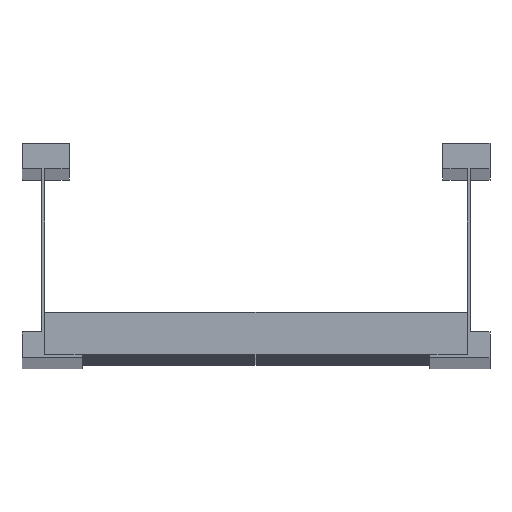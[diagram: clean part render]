
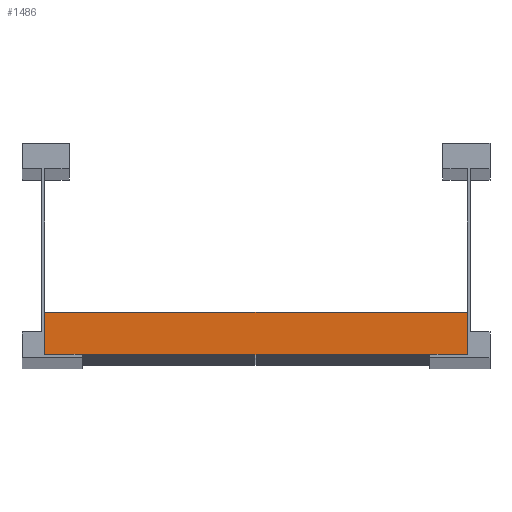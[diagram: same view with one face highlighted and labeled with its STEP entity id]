
A CAD part, top view. The second image highlights one B-rep face of the part: STEP entity #1486.
In plain terms, the highlighted planar face has unit normal (0, 0, 1).
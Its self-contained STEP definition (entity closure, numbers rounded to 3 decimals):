
#5 = ORIENTED_EDGE ( 'NONE', *, *, #10724, .T. ) ;
#411 = VECTOR ( 'NONE', #1797, 1000. ) ;
#1029 = LINE ( 'NONE', #6186, #3321 ) ;
#1486 = ADVANCED_FACE ( 'NONE', ( #6706 ), #1542, .F. ) ;
#1542 = PLANE ( 'NONE',  #2920 ) ;
#1639 = ORIENTED_EDGE ( 'NONE', *, *, #2992, .F. ) ;
#1797 = DIRECTION ( 'NONE',  ( -1., 0., 0. ) ) ;
#1862 = DIRECTION ( 'NONE',  ( 0., -1., 0. ) ) ;
#2394 = VERTEX_POINT ( 'NONE', #11274 ) ;
#2765 = CARTESIAN_POINT ( 'NONE',  ( -98.5, 0., 20.25 ) ) ;
#2888 = VECTOR ( 'NONE', #1862, 1000. ) ;
#2920 = AXIS2_PLACEMENT_3D ( 'NONE', #10295, #8535, #9582 ) ;
#2992 = EDGE_CURVE ( 'NONE', #3861, #6107, #1029, .T. ) ;
#3321 = VECTOR ( 'NONE', #3719, 1000. ) ;
#3621 = VERTEX_POINT ( 'NONE', #10213 ) ;
#3719 = DIRECTION ( 'NONE',  ( -1., 0., 0. ) ) ;
#3861 = VERTEX_POINT ( 'NONE', #6442 ) ;
#4132 = EDGE_LOOP ( 'NONE', ( #9977, #1639, #10216, #5 ) ) ;
#4227 = DIRECTION ( 'NONE',  ( 0., -1., 0. ) ) ;
#5105 = CARTESIAN_POINT ( 'NONE',  ( -98.5, 20., 20.25 ) ) ;
#6107 = VERTEX_POINT ( 'NONE', #2765 ) ;
#6132 = LINE ( 'NONE', #11489, #411 ) ;
#6186 = CARTESIAN_POINT ( 'NONE',  ( 98.5, 0., 20.25 ) ) ;
#6320 = LINE ( 'NONE', #9905, #2888 ) ;
#6442 = CARTESIAN_POINT ( 'NONE',  ( 98.5, 0., 20.25 ) ) ;
#6706 = FACE_OUTER_BOUND ( 'NONE', #4132, .T. ) ;
#6778 = EDGE_CURVE ( 'NONE', #3621, #3861, #6320, .T. ) ;
#6868 = EDGE_CURVE ( 'NONE', #2394, #6107, #10345, .T. ) ;
#8516 = VECTOR ( 'NONE', #4227, 1000. ) ;
#8535 = DIRECTION ( 'NONE',  ( 0., 0., -1. ) ) ;
#9582 = DIRECTION ( 'NONE',  ( 0., 1., 0. ) ) ;
#9905 = CARTESIAN_POINT ( 'NONE',  ( 98.5, 20., 20.25 ) ) ;
#9977 = ORIENTED_EDGE ( 'NONE', *, *, #6868, .T. ) ;
#10213 = CARTESIAN_POINT ( 'NONE',  ( 98.5, 20., 20.25 ) ) ;
#10216 = ORIENTED_EDGE ( 'NONE', *, *, #6778, .F. ) ;
#10295 = CARTESIAN_POINT ( 'NONE',  ( 98.5, 20., 20.25 ) ) ;
#10345 = LINE ( 'NONE', #5105, #8516 ) ;
#10724 = EDGE_CURVE ( 'NONE', #3621, #2394, #6132, .T. ) ;
#11274 = CARTESIAN_POINT ( 'NONE',  ( -98.5, 20., 20.25 ) ) ;
#11489 = CARTESIAN_POINT ( 'NONE',  ( 98.5, 20., 20.25 ) ) ;
